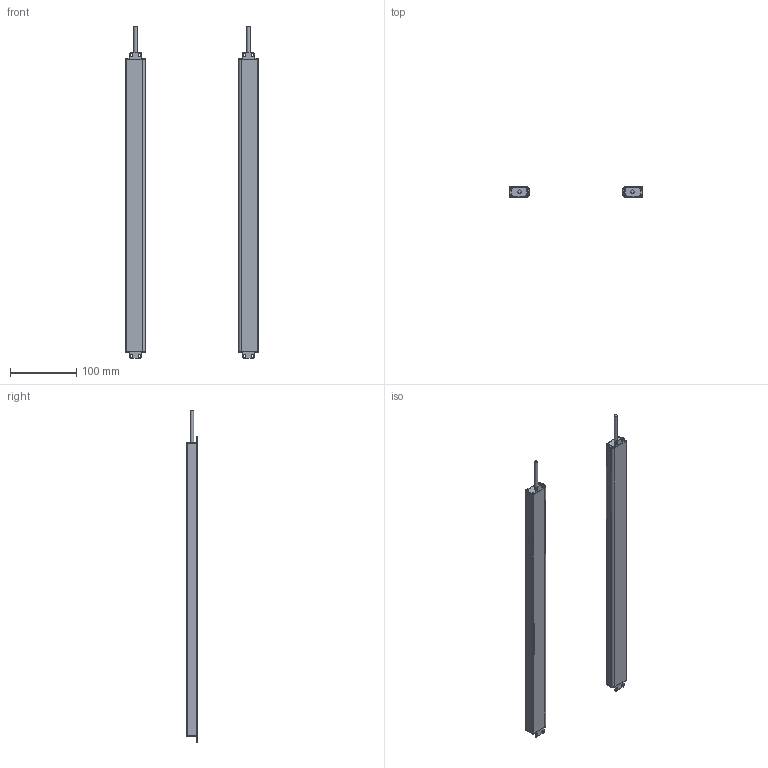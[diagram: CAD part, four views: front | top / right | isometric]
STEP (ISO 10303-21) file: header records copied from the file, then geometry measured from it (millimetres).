
FILE_DESCRIPTION(/* description */ (''),/* implementation_level */ '2;1');
FILE_NAME(/* name */ '2220（16X30ZW).stp',/* time_stamp */ '2020-07-14T19:11:01+08:00',/* author */ (''),/* organization */ (''),/* preprocessor_version */ 'ST-DEVELOPER v16',/* originating_system */ 'SIEMENS PLM Software NX 10.0',/* authorisation */ '');
FILE_SCHEMA (('AP203_CONFIGURATION_CONTROLLED_3D_DESIGN_OF_MECHANICAL_PARTS_AND_ASSEMBLIES_MIM_LF { 1 0 10303 403 2 1 2}'));
Length unit declared in the file: millimetre
Products named in the file (1): Admi58A03253m7ft
Bounding box: 200 x 16 x 501.5 mm (x, y, z)
Volume: 128906.9 mm3; surface area: 190757.3 mm2
Topology: 10 solids, 10 shells, 296 faces, 830 edges, 554 vertices
Faces by surface type: plane 160, cylinder 136
Full cylindrical faces by diameter (mm): 5 x2
Entity records: 9760 total; most frequent: DIRECTION 1692, CARTESIAN_POINT 1675, ORIENTED_EDGE 1652, EDGE_CURVE 826, AXIS2_PLACEMENT_3D 569, LINE 554, VECTOR 554, VERTEX_POINT 552
